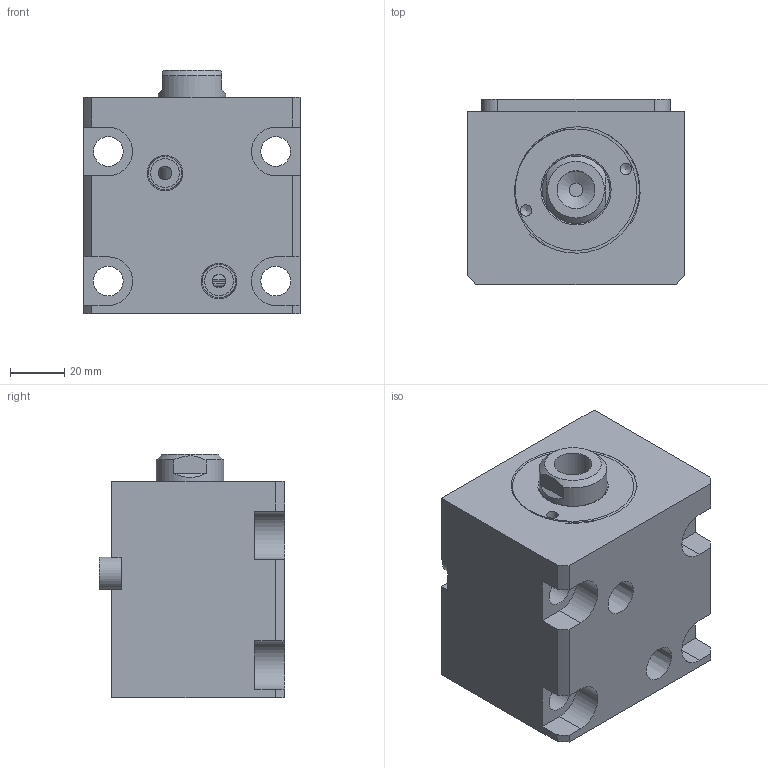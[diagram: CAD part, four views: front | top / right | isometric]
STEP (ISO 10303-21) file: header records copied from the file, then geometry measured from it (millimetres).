
FILE_DESCRIPTION(/* description */ (''),/* implementation_level */ '2;1');
FILE_NAME(/* name */ 'CHTB-la40x25n.stp',/* time_stamp */ '2022-04-29T17:24:27+08:00',/* author */ (''),/* organization */ (''),/* preprocessor_version */ 'ST-DEVELOPER v16.7',/* originating_system */ 'SIEMENS PLM Software NX 12.0',/* authorisation */ '');
FILE_SCHEMA (('AUTOMOTIVE_DESIGN { 1 0 10303 214 3 1 1 1 }'));
Length unit declared in the file: millimetre
Products named in the file (1): CHTB-la40x25n
Bounding box: 80 x 68.5 x 90 mm (x, y, z)
Volume: 352691.7 mm3; surface area: 77002 mm2
Topology: 4 solids, 4 shells, 446 faces, 1208 edges, 807 vertices
Faces by surface type: plane 294, extrusion 90, cylinder 39, torus 10, cone 7, bspline 6
Full cylindrical faces by diameter (mm): 4.2 x2, 5 x3, 10.7 x2, 11 x4, 14 x1, 25 x2, 29 x1, 34 x2, 40 x4, 45 x1
Entity records: 19978 total; most frequent: CARTESIAN_POINT 6892, ORIENTED_EDGE 2308, DIRECTION 1816, EDGE_CURVE 1154, VECTOR 932, LINE 842, VERTEX_POINT 794, EDGE_LOOP 536
